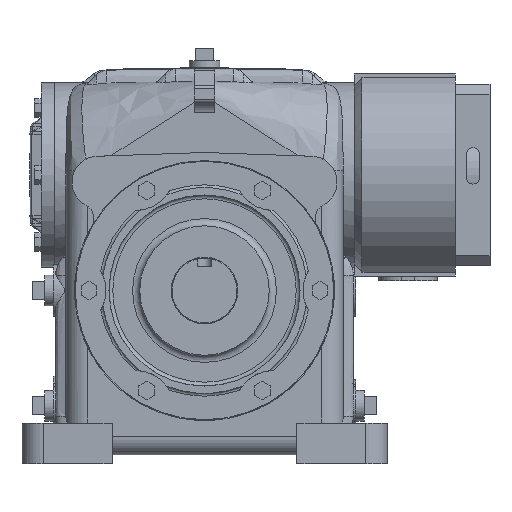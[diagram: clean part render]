
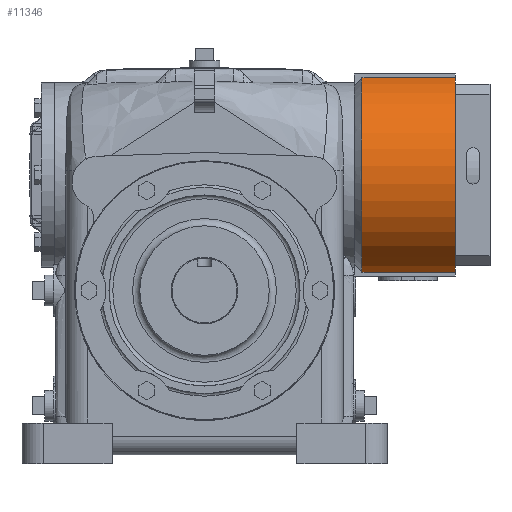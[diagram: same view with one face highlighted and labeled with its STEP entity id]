
A CAD part, front view. The second image highlights one B-rep face of the part: STEP entity #11346.
In plain terms, the highlighted cylindrical face has radius 88.9 mm (diameter 177.8 mm), a partial arc.
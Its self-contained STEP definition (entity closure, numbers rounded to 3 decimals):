
#816=CYLINDRICAL_SURFACE('',#13485,88.9);
#1487=LINE('',#29625,#2320);
#1488=LINE('',#29630,#2321);
#2320=VECTOR('',#15770,1000.);
#2321=VECTOR('',#15773,1000.);
#5197=ORIENTED_EDGE('',*,*,#7146,.F.);
#5198=ORIENTED_EDGE('',*,*,#7147,.F.);
#5199=ORIENTED_EDGE('',*,*,#7148,.T.);
#5200=ORIENTED_EDGE('',*,*,#7149,.T.);
#7146=EDGE_CURVE('',#8350,#8351,#1487,.F.);
#7147=EDGE_CURVE('',#8352,#8350,#8784,.T.);
#7148=EDGE_CURVE('',#8352,#8353,#1488,.F.);
#7149=EDGE_CURVE('',#8353,#8351,#8785,.T.);
#8350=VERTEX_POINT('',#29626);
#8351=VERTEX_POINT('',#29627);
#8352=VERTEX_POINT('',#29629);
#8353=VERTEX_POINT('',#29631);
#8784=CIRCLE('',#13486,88.9);
#8785=CIRCLE('',#13487,88.9);
#9473=EDGE_LOOP('',(#5197,#5198,#5199,#5200));
#10277=FACE_BOUND('',#9473,.T.);
#11346=ADVANCED_FACE('',(#10277),#816,.T.);
#13485=AXIS2_PLACEMENT_3D('',#29624,#15768,#15769);
#13486=AXIS2_PLACEMENT_3D('',#29628,#15771,#15772);
#13487=AXIS2_PLACEMENT_3D('',#29632,#15774,#15775);
#15768=DIRECTION('',(-1.,0.,0.));
#15769=DIRECTION('',(0.,0.,1.));
#15770=DIRECTION('',(-1.,0.,0.));
#15771=DIRECTION('',(-1.,0.,0.));
#15772=DIRECTION('',(0.,0.,1.));
#15773=DIRECTION('',(-1.,0.,0.));
#15774=DIRECTION('',(-1.,0.,0.));
#15775=DIRECTION('',(0.,0.,1.));
#29624=CARTESIAN_POINT('',(-60.008,0.,0.));
#29625=CARTESIAN_POINT('',(-60.008,-24.606,85.427));
#29626=CARTESIAN_POINT('',(6.765,-24.606,85.427));
#29627=CARTESIAN_POINT('',(89.01,-24.606,85.427));
#29628=CARTESIAN_POINT('',(6.765,0.,0.));
#29629=CARTESIAN_POINT('',(6.765,-24.606,-85.427));
#29630=CARTESIAN_POINT('',(-60.008,-24.606,-85.427));
#29631=CARTESIAN_POINT('',(89.01,-24.606,-85.427));
#29632=CARTESIAN_POINT('',(89.01,0.,0.));
